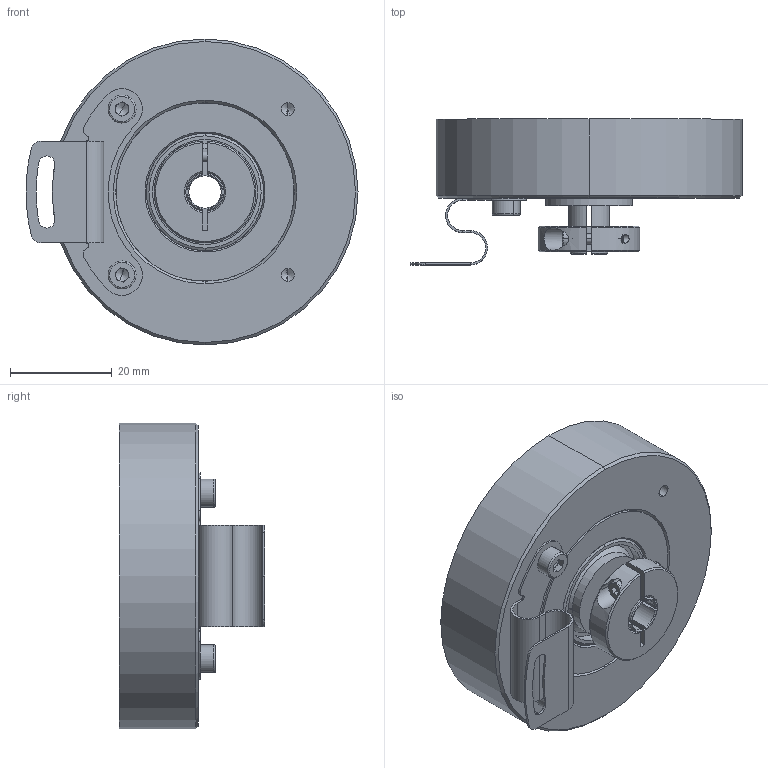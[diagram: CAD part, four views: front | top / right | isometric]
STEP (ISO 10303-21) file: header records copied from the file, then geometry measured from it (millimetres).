
FILE_DESCRIPTION (( 'STEP AP214' ), '1' );
FILE_NAME ('drawing-ucd-hrtv-q5b-n.STEP', '2017-02-20T09:49:38', ( '' ), ( '' ), 'SwSTEP 2.0', 'SolidWorks 2015', '' );
FILE_SCHEMA (( 'AUTOMOTIVE_DESIGN' ));
Length unit declared in the file: millimetre
Products named in the file (1): drawing-ucd-hrtv-q5b-n
Bounding box: 65.1 x 28.6 x 60 mm (x, y, z)
Volume: 41767.2 mm3; surface area: 24845.9 mm2
Topology: 26 solids, 26 shells, 591 faces, 1439 edges, 879 vertices
Faces by surface type: plane 220, bspline 146, cylinder 128, cone 85, torus 12
Entity records: 29624 total; most frequent: CARTESIAN_POINT 9844, ORIENTED_EDGE 2758, DIRECTION 2488, EDGE_CURVE 1379, AXIS2_PLACEMENT_3D 893, VERTEX_POINT 879, VECTOR 702, LINE 702
